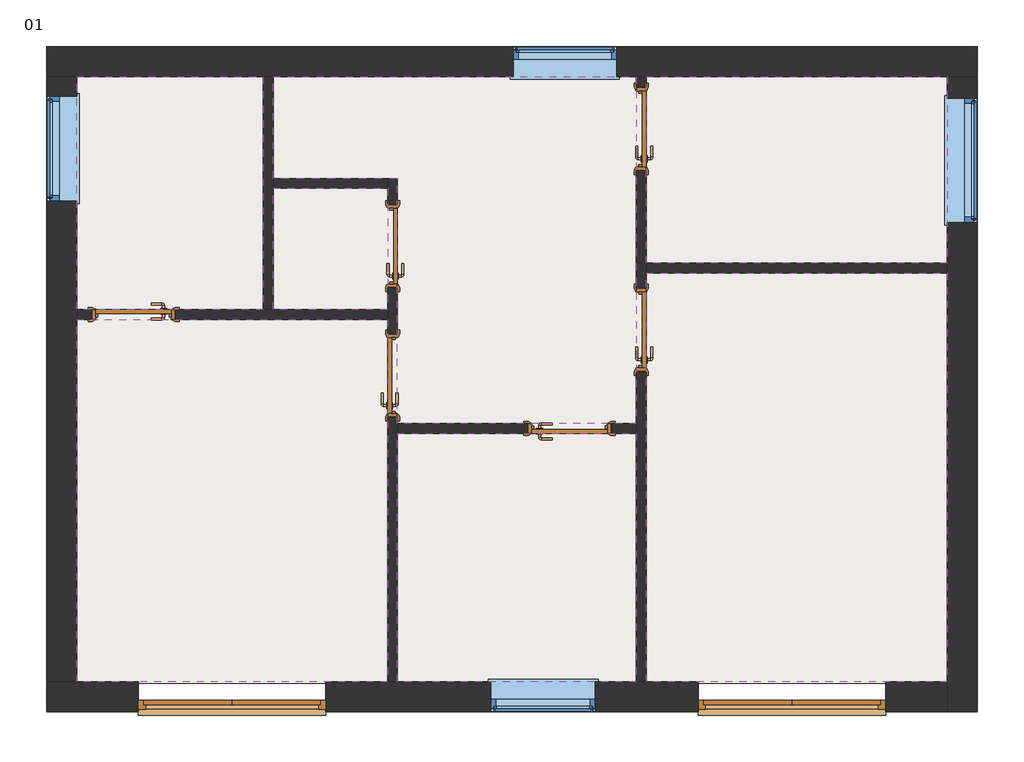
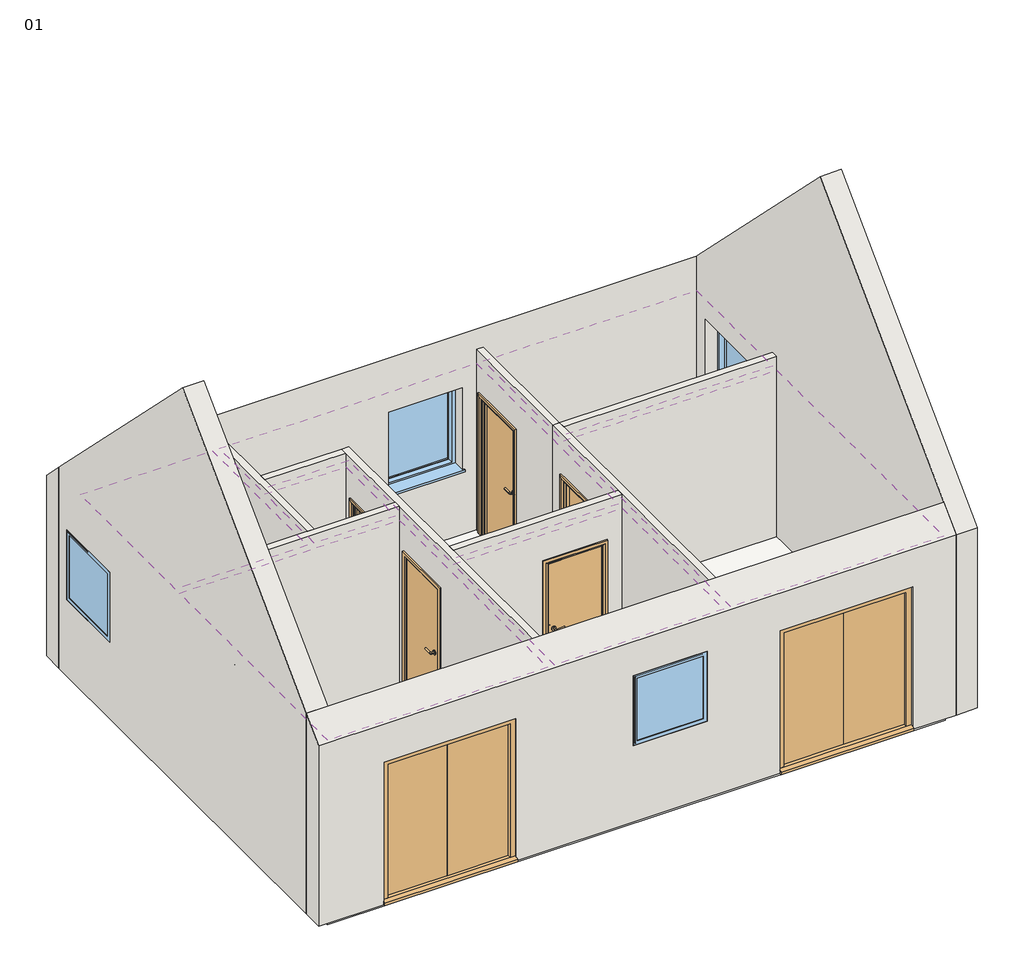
# One storey: 12 walls, 8 doors, 7 coverings, 4 windows, 1 slab.
"""IFC4 building model written with IfcOpenShell, lengths in millimetres."""

from ifc_helpers import new_model, si_unit, frame, origin, place, context, project, spatial, polyline, outline, extrude, faceted_brep, transform, mapped, element, save
from components import concept_extdbl_62_1810_x_2110mm_01508d64, intsgl_1_42_810_x_2110mm_b688a093, intsgl_1_49_900_x_1989mm_9c2f74cf, intsgl_1_49_900_x_1989mm_72eeee74, plain_composite_64_slim_south_windows_6c7d1eea, plain_composite_65_slim_south_windows_501c9886, plain_composite_65_slim_south_windows_6b0d4d13, plain_composite_67_1200x_1200mm_dp_top_hung_3191f899

model = new_model("IFC4")

# Units and contexts
model_context = context("Model", 3, world=origin())
ifc_project = project(units=[si_unit("LENGTHUNIT", "METRE", prefix="MILLI")], contexts=[model_context])

# Site, building, storey
site = spatial("IfcSite", under=ifc_project)
building = spatial("IfcBuilding", under=site)
storey = spatial("IfcBuildingStorey", under=building, Name="01", Elevation=2900.0)

# Coverings
placement = place(None, origin())
element("IfcCovering", 1, ObjectType="Plain", at=placement, inside=storey, context=model_context, shape_type="SweptSolid", body=[
    extrude(outline(polyline([(1765.1139143, -4522.8572404), (1765.1139143, -8471.4820976), (-1139.8860857, -8471.4820976), (-1139.8860857, -4522.8572404), (1765.1139143, -4522.8572404)])), frame((0.0, 0.0, 5300.0), z_axis=(0.0, 0.0, 1.0), x_axis=(1.0, 0.0, 0.0)), (0.0, 0.0, 1.0), 57.0),
])
element("IfcCovering", 2, ObjectType="Plain", at=placement, inside=storey, context=model_context, shape_type="SweptSolid", body=[
    extrude(outline(polyline([(-1139.8860857, -2627.8572404), (1765.1139143, -2627.8572404), (1765.1139143, -4427.8572404), (-1139.8860857, -4427.8572404), (-1139.8860857, -2627.8572404)])), frame((0.0, 0.0, 5300.0), z_axis=(0.0, 0.0, 1.0), x_axis=(1.0, 0.0, 0.0)), (0.0, 0.0, 1.0), 57.0),
])
element("IfcCovering", 3, ObjectType="Plain", at=placement, inside=storey, context=model_context, shape_type="SweptSolid", body=[
    extrude(outline(polyline([(-4739.8860857, -3611.4820976), (-4739.8860857, -2627.8572404), (-1234.8860857, -2627.8572404), (-1234.8860857, -4427.8572404), (-1234.8860857, -5976.4820976), (-3539.8860857, -5976.4820976), (-3539.8860857, -3611.4820976), (-4739.8860857, -3611.4820976)])), frame((0.0, 0.0, 5300.0), z_axis=(0.0, 0.0, 1.0), x_axis=(1.0, 0.0, 0.0)), (0.0, 0.0, 1.0), 57.0),
])
element("IfcCovering", 4, ObjectType="Plain", at=placement, inside=storey, context=model_context, shape_type="SweptSolid", body=[
    extrude(outline(polyline([(-1234.8860857, -8471.4820976), (-3539.8860857, -8471.4820976), (-3539.8860857, -6071.4820976), (-1234.8860857, -6071.4820976), (-1234.8860857, -8471.4820976)])), frame((0.0, 0.0, 5300.0), z_axis=(0.0, 0.0, 1.0), x_axis=(1.0, 0.0, 0.0)), (0.0, 0.0, 1.0), 57.0),
])
element("IfcCovering", 5, ObjectType="Plain", at=placement, inside=storey, context=model_context, shape_type="SweptSolid", body=[
    extrude(outline(polyline([(-3634.8860857, -8471.4820976), (-6634.8860857, -8471.4820976), (-6634.8860857, -4971.4820976), (-3634.8860857, -4971.4820976), (-3634.8860857, -8471.4820976)])), frame((0.0, 0.0, 5300.0), z_axis=(0.0, 0.0, 1.0), x_axis=(1.0, 0.0, 0.0)), (0.0, 0.0, 1.0), 57.0),
])
element("IfcCovering", 6, ObjectType="Plain", at=placement, inside=storey, context=model_context, shape_type="SweptSolid", body=[
    extrude(outline(polyline([(-4739.8860857, -4876.4820976), (-4739.8860857, -3706.4820976), (-3634.8860857, -3706.4820976), (-3634.8860857, -4876.4820976), (-4739.8860857, -4876.4820976)])), frame((0.0, 0.0, 5300.0), z_axis=(0.0, 0.0, 1.0), x_axis=(1.0, 0.0, 0.0)), (0.0, 0.0, 1.0), 57.0),
])
element("IfcCovering", 7, ObjectType="Plain", at=placement, inside=storey, context=model_context, shape_type="SweptSolid", body=[
    extrude(outline(polyline([(-6634.8860857, -2627.8572404), (-4834.8860857, -2627.8572404), (-4834.8860857, -4876.4820976), (-6634.8860857, -4876.4820976), (-6634.8860857, -2627.8572404)])), frame((0.0, 0.0, 5300.0), z_axis=(0.0, 0.0, 1.0), x_axis=(1.0, 0.0, 0.0)), (0.0, 0.0, 1.0), 57.0),
])

# Doors
concept_extdbl_62_1810_x_2110mm_shape = concept_extdbl_62_1810_x_2110mm_01508d64(model_context)
element("IfcDoor", 8, ObjectType="Concept ExtDbl : 62 - 1810 x 2110mm", at=placement, inside=storey, context=model_context, shape_type="MappedRepresentation", body=[
    mapped(concept_extdbl_62_1810_x_2110mm_shape, transform((-5134.8860857, -8616.4820976, 2900.0), x_axis=(-1.0, 0.0, 0.0), y_axis=(0.0, -1.0, 0.0), z_axis=(0.0, 0.0, 1.0))),
])
element("IfcDoor", 9, ObjectType="Concept ExtDbl : 62 - 1810 x 2110mm", at=placement, inside=storey, context=model_context, shape_type="MappedRepresentation", body=[
    mapped(concept_extdbl_62_1810_x_2110mm_shape, transform((265.1139143, -8616.4820976, 2900.0), x_axis=(-1.0, 0.0, 0.0), y_axis=(0.0, -1.0, 0.0), z_axis=(0.0, 0.0, 1.0))),
])
intsgl_1_42_810_x_2110mm_shape = intsgl_1_42_810_x_2110mm_b688a093(model_context)
element("IfcDoor", 10, ObjectType="IntSgl (1) : 42 - 810 x 2110mm", at=placement, inside=storey, context=model_context, shape_type="MappedRepresentation", body=[
    mapped(intsgl_1_42_810_x_2110mm_shape, transform((-3587.3860857, -4263.9820976, 2900.0), x_axis=(0.0, 1.0, 0.0), y_axis=(-1.0, 0.0, 0.0), z_axis=(0.0, 0.0, 1.0))),
])
intsgl_1_49_900_x_1989mm_shape = intsgl_1_49_900_x_1989mm_9c2f74cf(model_context)
element("IfcDoor", 11, ObjectType="IntSgl (1) : 49 - 900 x 1989mm", at=placement, inside=storey, context=model_context, shape_type="MappedRepresentation", body=[
    mapped(intsgl_1_49_900_x_1989mm_shape, transform((-1879.8860857, -6023.9820976, 2900.0), x_axis=(1.0, 0.0, 0.0), y_axis=(0.0, 1.0, 0.0), z_axis=(0.0, 0.0, 1.0))),
])
element("IfcDoor", 12, ObjectType="IntSgl (1) : 49 - 900 x 1989mm", at=placement, inside=storey, context=model_context, shape_type="MappedRepresentation", body=[
    mapped(intsgl_1_49_900_x_1989mm_shape, transform((-6084.8860857, -4923.9820976, 2900.0), x_axis=(-1.0, 0.0, 0.0), y_axis=(0.0, -1.0, 0.0), z_axis=(0.0, 0.0, 1.0))),
])
element("IfcDoor", 13, ObjectType="IntSgl (1) : 49 - 900 x 1989mm", at=placement, inside=storey, context=model_context, shape_type="MappedRepresentation", body=[
    mapped(intsgl_1_49_900_x_1989mm_shape, transform((-1187.3860857, -3132.8572404, 2900.0), x_axis=(0.0, 1.0, 0.0), y_axis=(-1.0, 0.0, 0.0), z_axis=(0.0, 0.0, 1.0))),
])
element("IfcDoor", 14, ObjectType="IntSgl (1) : 49 - 900 x 1989mm", at=placement, inside=storey, context=model_context, shape_type="MappedRepresentation", body=[
    mapped(intsgl_1_49_900_x_1989mm_shape, transform((-1187.3860857, -5072.8572404, 2900.0), x_axis=(0.0, 1.0, 0.0), y_axis=(-1.0, 0.0, 0.0), z_axis=(0.0, 0.0, 1.0))),
])
intsgl_1_49_900_x_1989mm_2_shape = intsgl_1_49_900_x_1989mm_72eeee74(model_context)
element("IfcDoor", 15, ObjectType="IntSgl (1) : 49 - 900 x 1989mm", at=placement, inside=storey, context=model_context, shape_type="MappedRepresentation", body=[
    mapped(intsgl_1_49_900_x_1989mm_2_shape, transform((-3587.3860857, -5513.9820976, 2900.0), x_axis=(0.0, 1.0, 0.0), y_axis=(-1.0, 0.0, 0.0), z_axis=(0.0, 0.0, 1.0))),
])

# Slab
element("IfcSlab", 16, ObjectType="Timber Suspended Floor", at=placement, inside=storey, context=model_context, shape_type="SweptSolid", body=[
    extrude(outline(polyline([(-6647.3860857, -2615.3572404), (1777.6139143, -2615.3572404), (1777.6139143, -8483.9820976), (-6647.3860857, -8483.9820976), (-6647.3860857, -2615.3572404)])), frame((0.0, 0.0, 2653.0), z_axis=(0.0, 0.0, 1.0), x_axis=(1.0, 0.0, 0.0)), (0.0, 0.0, 1.0), 247.0),
])

# Walls
element("IfcWall", 17, ObjectType="External Wall", at=placement, inside=storey, context=model_context, shape_type="Brep", body=[
    faceted_brep([(-6924.8860857, -2627.8572404, 2900.0), (-6634.8860857, -2627.8572404, 2900.0), (-4834.8860857, -2627.8572404, 2900.0), (-4739.8860857, -2627.8572404, 2900.0), (-1234.8860857, -2627.8572404, 2900.0), (-1139.8860857, -2627.8572404, 2900.0), (1765.1139143, -2627.8572404, 2900.0), (2055.1139143, -2627.8572404, 2900.0), (2055.1139143, -2627.8572404, 5790.0), (1765.1139143, -2627.8572404, 5790.0), (-6634.8860857, -2627.8572404, 5790.0), (-6924.8860857, -2627.8572404, 5790.0), (-1424.8860857, -2627.8572404, 5010.0), (-1424.8860857, -2627.8572404, 3810.0), (-2424.8860857, -2627.8572404, 3810.0), (-2424.8860857, -2627.8572404, 5010.0), (2055.1139143, -2337.8572404, 2900.0), (-6924.8860857, -2337.8572404, 2900.0), (-6924.8860857, -2337.8572404, 5500.0), (2055.1139143, -2337.8572404, 5500.0), (-1424.8860857, -2337.8572404, 3810.0), (-1424.8860857, -2337.8572404, 5010.0), (-2424.8860857, -2337.8572404, 5010.0), (-2424.8860857, -2337.8572404, 3810.0)], [[[0, 1, 2, 3, 4, 5, 6, 7, 8, 9, 10, 11], [12, 13, 14, 15]], [[16, 17, 18, 19], [20, 21, 22, 23]], [[20, 13, 12, 21]], [[21, 12, 15, 22]], [[22, 15, 14, 23]], [[13, 20, 23, 14]], [[7, 6, 5, 4, 3, 2, 1, 0, 17, 16]], [[8, 7, 16, 19]], [[0, 11, 18, 17]], [[11, 10, 9, 8, 19, 18]]]),
])
element("IfcWall", 18, ObjectType="External Wall", at=placement, inside=storey, context=model_context, shape_type="Brep", body=[
    faceted_brep([(1765.1139143, -2627.8572404, 2900.0), (1765.1139143, -4427.8572404, 2900.0), (1765.1139143, -4522.8572404, 2900.0), (1765.1139143, -8471.4820976, 2900.0), (1765.1139143, -8761.4820976, 2900.0), (1765.1139143, -8761.4820976, 5500.0), (1765.1139143, -8471.4820976, 5790.0), (1765.1139143, -5549.669669, 8711.8124286), (1765.1139143, -2627.8572404, 5790.0), (1765.1139143, -2835.3572404, 3810.0), (1765.1139143, -2835.3572404, 5010.0), (1765.1139143, -4035.3572404, 5010.0), (1765.1139143, -4035.3572404, 3810.0), (2055.1139143, -8761.4820976, 2900.0), (2055.1139143, -2627.8572404, 2900.0), (2055.1139143, -2627.8572404, 5790.0), (2055.1139143, -5549.669669, 8711.8124286), (2055.1139143, -8761.4820976, 5500.0), (2055.1139143, -2835.3572404, 5010.0), (2055.1139143, -2835.3572404, 3810.0), (2055.1139143, -4035.3572404, 3810.0), (2055.1139143, -4035.3572404, 5010.0)], [[[0, 1, 2, 3, 4, 5, 6, 7, 8], [9, 10, 11, 12]], [[13, 14, 15, 16, 17], [18, 19, 20, 21]], [[4, 3, 2, 1, 0, 14, 13]], [[5, 4, 13, 17]], [[9, 19, 18, 10]], [[10, 18, 21, 11]], [[11, 21, 20, 12]], [[19, 9, 12, 20]], [[0, 8, 15, 14]], [[15, 8, 7, 16]], [[5, 17, 16, 7, 6]]]),
])
element("IfcWall", 19, ObjectType="External Wall", at=placement, inside=storey, context=model_context, shape_type="Brep", body=[
    faceted_brep([(-639.8860857, -8471.4820976, 4955.0), (-639.8860857, -8471.4820976, 2900.0), (-1139.8860857, -8471.4820976, 2900.0), (-1234.8860857, -8471.4820976, 2900.0), (-3539.8860857, -8471.4820976, 2900.0), (-3634.8860857, -8471.4820976, 2900.0), (-4229.8860857, -8471.4820976, 2900.0), (-4229.8860857, -8471.4820976, 4955.0), (-6039.8860857, -8471.4820976, 4955.0), (-6039.8860857, -8471.4820976, 2900.0), (-6634.8860857, -8471.4820976, 2900.0), (-6924.8860857, -8471.4820976, 2900.0), (-6924.8860857, -8471.4820976, 5790.0), (-6634.8860857, -8471.4820976, 5790.0), (1765.1139143, -8471.4820976, 5790.0), (1765.1139143, -8471.4820976, 2900.0), (1170.1139143, -8471.4820976, 2900.0), (1170.1139143, -8471.4820976, 4955.0), (-1629.8860857, -8471.4820976, 4000.0), (-1629.8860857, -8471.4820976, 5010.0), (-2639.8860857, -8471.4820976, 5010.0), (-2639.8860857, -8471.4820976, 4000.0), (-4229.8860857, -8761.4820976, 2900.0), (-639.8860857, -8761.4820976, 2900.0), (-639.8860857, -8761.4820976, 4955.0), (1170.1139143, -8761.4820976, 4955.0), (1170.1139143, -8761.4820976, 2900.0), (1765.1139143, -8761.4820976, 2900.0), (1765.1139143, -8761.4820976, 5500.0), (-6924.8860857, -8761.4820976, 5500.0), (-6924.8860857, -8761.4820976, 2900.0), (-6039.8860857, -8761.4820976, 2900.0), (-6039.8860857, -8761.4820976, 4955.0), (-4229.8860857, -8761.4820976, 4955.0), (-1629.8860857, -8761.4820976, 4000.0), (-2639.8860857, -8761.4820976, 4000.0), (-2639.8860857, -8761.4820976, 5010.0), (-1629.8860857, -8761.4820976, 5010.0)], [[[0, 1, 2, 3, 4, 5, 6, 7, 8, 9, 10, 11, 12, 13, 14, 15, 16, 17], [18, 19, 20, 21]], [[22, 23, 24, 25, 26, 27, 28, 29, 30, 31, 32, 33], [34, 35, 36, 37]], [[11, 10, 9, 31, 30]], [[16, 15, 27, 26]], [[6, 5, 4, 3, 2, 1, 23, 22]], [[15, 14, 28, 27]], [[12, 11, 30, 29]], [[22, 33, 7, 6]], [[32, 31, 9, 8]], [[33, 32, 8, 7]], [[26, 25, 17, 16]], [[24, 23, 1, 0]], [[25, 24, 0, 17]], [[19, 18, 34, 37]], [[20, 19, 37, 36]], [[21, 20, 36, 35]], [[18, 21, 35, 34]], [[14, 13, 12, 29, 28]]]),
])
element("IfcWall", 20, ObjectType="External Wall", at=placement, inside=storey, context=model_context, shape_type="Brep", body=[
    faceted_brep([(-6634.8860857, -8471.4820976, 2900.0), (-6634.8860857, -4971.4820976, 2900.0), (-6634.8860857, -4876.4820976, 2900.0), (-6634.8860857, -2627.8572404, 2900.0), (-6634.8860857, -2627.8572404, 5790.0), (-6634.8860857, -5549.669669, 8711.8124286), (-6634.8860857, -8471.4820976, 5790.0), (-6634.8860857, -2817.8572404, 5010.0), (-6634.8860857, -2817.8572404, 4000.0), (-6634.8860857, -3827.8572404, 4000.0), (-6634.8860857, -3827.8572404, 5010.0), (-6924.8860857, -2627.8572404, 2900.0), (-6924.8860857, -8471.4820976, 2900.0), (-6924.8860857, -8471.4820976, 5790.0), (-6924.8860857, -5549.669669, 8711.8124286), (-6924.8860857, -2627.8572404, 5790.0), (-6924.8860857, -2817.8572404, 4000.0), (-6924.8860857, -2817.8572404, 5010.0), (-6924.8860857, -3827.8572404, 5010.0), (-6924.8860857, -3827.8572404, 4000.0)], [[[0, 1, 2, 3, 4, 5, 6], [7, 8, 9, 10]], [[11, 12, 13, 14, 15], [16, 17, 18, 19]], [[3, 2, 1, 0, 12, 11]], [[0, 6, 13, 12]], [[16, 8, 7, 17]], [[17, 7, 10, 18]], [[18, 10, 9, 19]], [[8, 16, 19, 9]], [[4, 3, 11, 15]], [[13, 6, 5, 14]], [[4, 15, 14, 5]]]),
])
element("IfcWall", 21, ObjectType="Internal wall", at=placement, inside=storey, context=model_context, shape_type="Brep", body=[
    faceted_brep([(-1234.8860857, -8471.4820976, 5500.0), (-1234.8860857, -6071.4820976, 5500.0), (-1234.8860857, -5976.4820976, 5500.0), (-1234.8860857, -4427.8572404, 5500.0), (-1234.8860857, -4427.8572404, 2900.0), (-1234.8860857, -4667.8572404, 2900.0), (-1234.8860857, -4667.8572404, 4889.0), (-1234.8860857, -5477.8572404, 4889.0), (-1234.8860857, -5477.8572404, 2900.0), (-1234.8860857, -5976.4820976, 2900.0), (-1234.8860857, -6071.4820976, 2900.0), (-1234.8860857, -8471.4820976, 2900.0), (-1139.8860857, -4427.8572404, 5500.0), (-1139.8860857, -4522.8572404, 5500.0), (-1139.8860857, -8471.4820976, 5500.0), (-1139.8860857, -8471.4820976, 2900.0), (-1139.8860857, -5477.8572404, 2900.0), (-1139.8860857, -5477.8572404, 4889.0), (-1139.8860857, -4667.8572404, 4889.0), (-1139.8860857, -4667.8572404, 2900.0), (-1139.8860857, -4522.8572404, 2900.0), (-1139.8860857, -4427.8572404, 2900.0)], [[[0, 1, 2, 3, 4, 5, 6, 7, 8, 9, 10, 11]], [[12, 13, 14, 15, 16, 17, 18, 19, 20, 21]], [[15, 11, 10, 9, 8, 16]], [[4, 21, 20, 19, 5]], [[3, 2, 1, 0, 14, 13, 12]], [[0, 11, 15, 14]], [[4, 3, 12, 21]], [[18, 6, 5, 19]], [[6, 18, 17, 7]], [[7, 17, 16, 8]]]),
])
element("IfcWall", 22, ObjectType="Internal wall", at=placement, inside=storey, context=model_context, shape_type="Brep", body=[
    faceted_brep([(-4834.8860857, -2627.8572404, 2900.0), (-4834.8860857, -4876.4820976, 2900.0), (-4834.8860857, -4876.4820976, 5500.0), (-4834.8860857, -2627.8572404, 5500.0), (-4739.8860857, -2627.8572404, 2900.0), (-4739.8860857, -2627.8572404, 5500.0), (-4739.8860857, -3611.4820976, 5500.0), (-4739.8860857, -3706.4820976, 5500.0), (-4739.8860857, -4876.4820976, 5500.0), (-4739.8860857, -4876.4820976, 2900.0), (-4739.8860857, -3706.4820976, 2900.0), (-4739.8860857, -3611.4820976, 2900.0)], [[[0, 1, 2, 3]], [[4, 5, 6, 7, 8, 9, 10, 11]], [[1, 0, 4, 11, 10, 9]], [[3, 2, 8, 7, 6, 5]], [[0, 3, 5, 4]], [[2, 1, 9, 8]]]),
])
element("IfcWall", 23, ObjectType="Internal wall", at=placement, inside=storey, context=model_context, shape_type="Brep", body=[
    faceted_brep([(-6634.8860857, -4876.4820976, 5500.0), (-4834.8860857, -4876.4820976, 5500.0), (-4739.8860857, -4876.4820976, 5500.0), (-3634.8860857, -4876.4820976, 5500.0), (-3634.8860857, -4876.4820976, 2900.0), (-4739.8860857, -4876.4820976, 2900.0), (-4834.8860857, -4876.4820976, 2900.0), (-5679.8860857, -4876.4820976, 2900.0), (-5679.8860857, -4876.4820976, 4889.0), (-6489.8860857, -4876.4820976, 4889.0), (-6489.8860857, -4876.4820976, 2900.0), (-6634.8860857, -4876.4820976, 2900.0), (-3634.8860857, -4971.4820976, 5500.0), (-6634.8860857, -4971.4820976, 5500.0), (-6634.8860857, -4971.4820976, 2900.0), (-6489.8860857, -4971.4820976, 2900.0), (-6489.8860857, -4971.4820976, 4889.0), (-5679.8860857, -4971.4820976, 4889.0), (-5679.8860857, -4971.4820976, 2900.0), (-3634.8860857, -4971.4820976, 2900.0)], [[[0, 1, 2, 3, 4, 5, 6, 7, 8, 9, 10, 11]], [[12, 13, 14, 15, 16, 17, 18, 19]], [[14, 11, 10, 15]], [[4, 19, 18, 7, 6, 5]], [[3, 2, 1, 0, 13, 12]], [[0, 11, 14, 13]], [[4, 3, 12, 19]], [[9, 16, 15, 10]], [[16, 9, 8, 17]], [[17, 8, 7, 18]]]),
])
element("IfcWall", 24, ObjectType="Internal wall", at=placement, inside=storey, context=model_context, shape_type="Brep", body=[
    faceted_brep([(-3634.8860857, -8471.4820976, 5500.0), (-3634.8860857, -4971.4820976, 5500.0), (-3634.8860857, -4876.4820976, 5500.0), (-3634.8860857, -3706.4820976, 5500.0), (-3634.8860857, -3611.4820976, 5500.0), (-3634.8860857, -3611.4820976, 2900.0), (-3634.8860857, -3706.4820976, 2900.0), (-3634.8860857, -3858.9820976, 2900.0), (-3634.8860857, -3858.9820976, 4889.0), (-3634.8860857, -4668.9820976, 4889.0), (-3634.8860857, -4668.9820976, 2900.0), (-3634.8860857, -4876.4820976, 2900.0), (-3634.8860857, -4971.4820976, 2900.0), (-3634.8860857, -5108.9820976, 2900.0), (-3634.8860857, -5108.9820976, 4889.0), (-3634.8860857, -5918.9820976, 4889.0), (-3634.8860857, -5918.9820976, 2900.0), (-3634.8860857, -8471.4820976, 2900.0), (-3539.8860857, -3611.4820976, 5500.0), (-3539.8860857, -5976.4820976, 5500.0), (-3539.8860857, -6071.4820976, 5500.0), (-3539.8860857, -8471.4820976, 5500.0), (-3539.8860857, -8471.4820976, 2900.0), (-3539.8860857, -6071.4820976, 2900.0), (-3539.8860857, -5976.4820976, 2900.0), (-3539.8860857, -5918.9820976, 2900.0), (-3539.8860857, -5918.9820976, 4889.0), (-3539.8860857, -5108.9820976, 4889.0), (-3539.8860857, -5108.9820976, 2900.0), (-3539.8860857, -4668.9820976, 2900.0), (-3539.8860857, -4668.9820976, 4889.0), (-3539.8860857, -3858.9820976, 4889.0), (-3539.8860857, -3858.9820976, 2900.0), (-3539.8860857, -3611.4820976, 2900.0)], [[[0, 1, 2, 3, 4, 5, 6, 7, 8, 9, 10, 11, 12, 13, 14, 15, 16, 17]], [[18, 19, 20, 21, 22, 23, 24, 25, 26, 27, 28, 29, 30, 31, 32, 33]], [[22, 17, 16, 25, 24, 23]], [[5, 33, 32, 7, 6]], [[10, 29, 28, 13, 12, 11]], [[4, 3, 2, 1, 0, 21, 20, 19, 18]], [[0, 17, 22, 21]], [[5, 4, 18, 33]], [[8, 7, 32, 31]], [[9, 8, 31, 30]], [[10, 9, 30, 29]], [[27, 14, 13, 28]], [[14, 27, 26, 15]], [[15, 26, 25, 16]]]),
])
element("IfcWall", 25, ObjectType="Internal wall", at=placement, inside=storey, context=model_context, shape_type="SweptSolid", body=[
    extrude(outline(polyline([(5500.0, -1234.8860857), (5500.0, -3539.8860857), (2900.0, -3539.8860857), (2900.0, -2284.8860857), (4889.0, -2284.8860857), (4889.0, -1474.8860857), (2900.0, -1474.8860857), (2900.0, -1234.8860857), (5500.0, -1234.8860857)])), frame((0.0, -6071.4820976, 0.0), z_axis=(0.0, 1.0, 0.0), x_axis=(0.0, 0.0, 1.0)), (0.0, 0.0, 1.0), 95.0),
])
element("IfcWall", 26, ObjectType="Internal wall", at=placement, inside=storey, context=model_context, shape_type="SweptSolid", body=[
    extrude(outline(polyline([(1765.1139143, -4522.8572404), (-1139.8860857, -4522.8572404), (-1139.8860857, -4427.8572404), (1765.1139143, -4427.8572404), (1765.1139143, -4522.8572404)])), frame((0.0, 0.0, 2900.0), z_axis=(0.0, 0.0, 1.0), x_axis=(1.0, 0.0, 0.0)), (0.0, 0.0, 1.0), 2600.0),
])
element("IfcWall", 27, ObjectType="Internal wall", at=placement, inside=storey, context=model_context, shape_type="SweptSolid", body=[
    extrude(outline(polyline([(-3634.8860857, -3706.4820976), (-4739.8860857, -3706.4820976), (-4739.8860857, -3611.4820976), (-3634.8860857, -3611.4820976), (-3634.8860857, -3706.4820976)])), frame((0.0, 0.0, 2900.0), z_axis=(0.0, 0.0, 1.0), x_axis=(1.0, 0.0, 0.0)), (0.0, 0.0, 1.0), 2600.0),
])
element("IfcWall", 28, ObjectType="Internal wall", at=placement, inside=storey, context=model_context, shape_type="SweptSolid", body=[
    extrude(outline(polyline([(-4427.8572404, 5500.0), (-2627.8572404, 5500.0), (-2627.8572404, 2900.0), (-2727.8572404, 2900.0), (-2727.8572404, 4889.0), (-3537.8572404, 4889.0), (-3537.8572404, 2900.0), (-4427.8572404, 2900.0), (-4427.8572404, 5500.0)])), frame((-1234.8860857, 0.0, 0.0), z_axis=(1.0, 0.0, 0.0), x_axis=(0.0, 1.0, 0.0)), (0.0, 0.0, 1.0), 95.0),
])

# Windows
plain_composite_64_slim_south_windows_shape = plain_composite_64_slim_south_windows_6c7d1eea(model_context)
element("IfcWindow", 29, ObjectType="Plain Composite : 64 - slim south windows", at=placement, inside=storey, context=model_context, shape_type="MappedRepresentation", body=[
    mapped(plain_composite_64_slim_south_windows_shape, transform((-2214.8860857, -2491.3138082, 2900.0), x_axis=(-1.0, 0.0, 0.0), y_axis=(0.0, -1.0, 0.0), z_axis=(0.0, 0.0, 1.0))),
])
plain_composite_65_slim_south_windows_shape = plain_composite_65_slim_south_windows_501c9886(model_context)
element("IfcWindow", 30, ObjectType="Plain Composite : 65 - slim south windows", at=placement, inside=storey, context=model_context, shape_type="MappedRepresentation", body=[
    mapped(plain_composite_65_slim_south_windows_shape, transform((-6771.4295179, -3612.8572404, 2900.0), x_axis=(0.0, -1.0, 0.0), y_axis=(1.0, 0.0, 0.0), z_axis=(0.0, 0.0, 1.0))),
])
plain_composite_65_slim_south_windows_2_shape = plain_composite_65_slim_south_windows_6b0d4d13(model_context)
element("IfcWindow", 31, ObjectType="Plain Composite : 65 - slim south windows", at=placement, inside=storey, context=model_context, shape_type="MappedRepresentation", body=[
    mapped(plain_composite_65_slim_south_windows_2_shape, transform((-2424.8860857, -8608.0255298, 2900.0), x_axis=(-1.0, 0.0, 0.0), y_axis=(0.0, -1.0, 0.0), z_axis=(0.0, 0.0, 1.0))),
])
plain_composite_67_1200x_1200mm_dp_top_hung_shape = plain_composite_67_1200x_1200mm_dp_top_hung_3191f899(model_context)
element("IfcWindow", 32, ObjectType="Plain Composite : 67 - 1200x 1200mm dp Top Hung", at=placement, inside=storey, context=model_context, shape_type="MappedRepresentation", body=[
    mapped(plain_composite_67_1200x_1200mm_dp_top_hung_shape, transform((1901.6573464, -3725.3572404, 2900.0), x_axis=(0.0, -1.0, 0.0), y_axis=(1.0, 0.0, 0.0), z_axis=(0.0, 0.0, 1.0))),
])

save(model, "model.ifc")
